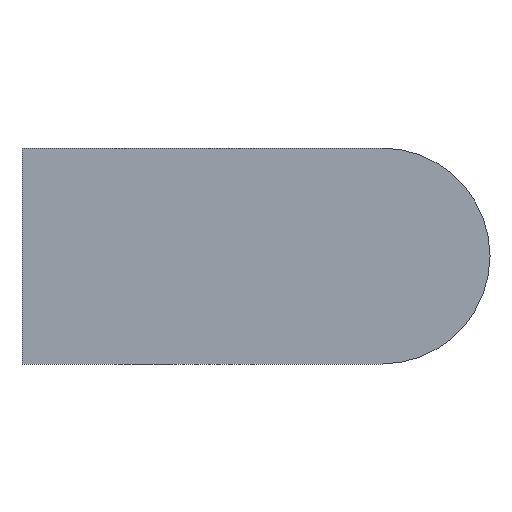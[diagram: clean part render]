
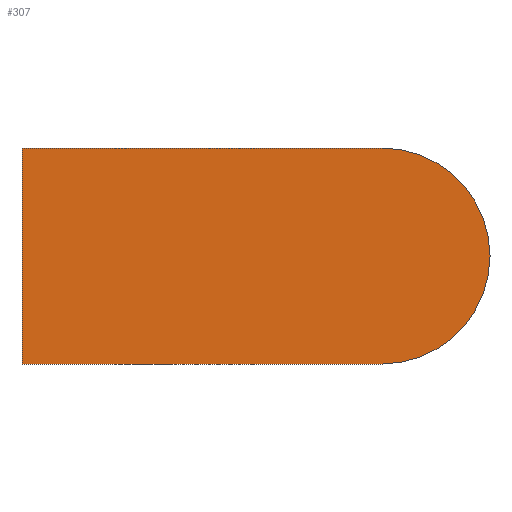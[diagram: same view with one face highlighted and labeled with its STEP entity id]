
A CAD part, front view. The second image highlights one B-rep face of the part: STEP entity #307.
In plain terms, the highlighted planar face has unit normal (0, -1, 0).
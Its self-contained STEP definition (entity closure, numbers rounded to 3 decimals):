
#222=CIRCLE('',#2527,16.5);
#307=ADVANCED_FACE('',(#525),#425,.F.);
#425=PLANE('',#2528);
#525=FACE_OUTER_BOUND('',#659,.T.);
#659=EDGE_LOOP('',(#1018,#1019,#1020,#1021));
#1018=ORIENTED_EDGE('',*,*,#1778,.F.);
#1019=ORIENTED_EDGE('',*,*,#1775,.F.);
#1020=ORIENTED_EDGE('',*,*,#1758,.F.);
#1021=ORIENTED_EDGE('',*,*,#1732,.F.);
#1480=VERTEX_POINT('',#3572);
#1481=VERTEX_POINT('',#3573);
#1503=VERTEX_POINT('',#3625);
#1516=VERTEX_POINT('',#3656);
#1732=EDGE_CURVE('',#1480,#1481,#2031,.T.);
#1758=EDGE_CURVE('',#1481,#1503,#2052,.T.);
#1775=EDGE_CURVE('',#1503,#1516,#2065,.T.);
#1778=EDGE_CURVE('',#1516,#1480,#222,.T.);
#2031=LINE('',#3571,#2279);
#2052=LINE('',#3624,#2300);
#2065=LINE('',#3655,#2313);
#2279=VECTOR('',#2851,1.);
#2300=VECTOR('',#2890,1.);
#2313=VECTOR('',#2913,1.);
#2527=AXIS2_PLACEMENT_3D('',#3661,#2921,#2922);
#2528=AXIS2_PLACEMENT_3D('',#3662,#2923,#2924);
#2851=DIRECTION('',(-1.,0.,0.));
#2890=DIRECTION('',(0.,0.,1.));
#2913=DIRECTION('',(1.,0.,0.));
#2921=DIRECTION('',(0.,1.,0.));
#2922=DIRECTION('',(0.,0.,-1.));
#2923=DIRECTION('',(0.,1.,0.));
#2924=DIRECTION('',(0.,0.,-1.));
#3571=CARTESIAN_POINT('',(136.5,-1454.993,-418.283));
#3572=CARTESIAN_POINT('',(120.,-1454.993,-418.283));
#3573=CARTESIAN_POINT('',(65.,-1454.993,-418.283));
#3624=CARTESIAN_POINT('',(65.,-1454.993,-418.283));
#3625=CARTESIAN_POINT('',(65.,-1454.993,-385.283));
#3655=CARTESIAN_POINT('',(65.,-1454.993,-385.283));
#3656=CARTESIAN_POINT('',(120.,-1454.993,-385.283));
#3661=CARTESIAN_POINT('',(120.,-1454.993,-401.783));
#3662=CARTESIAN_POINT('',(136.5,-1454.993,-418.283));
